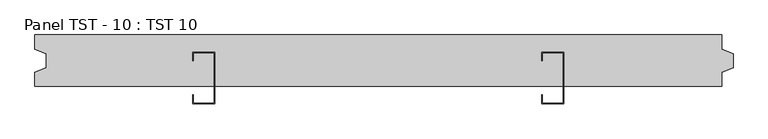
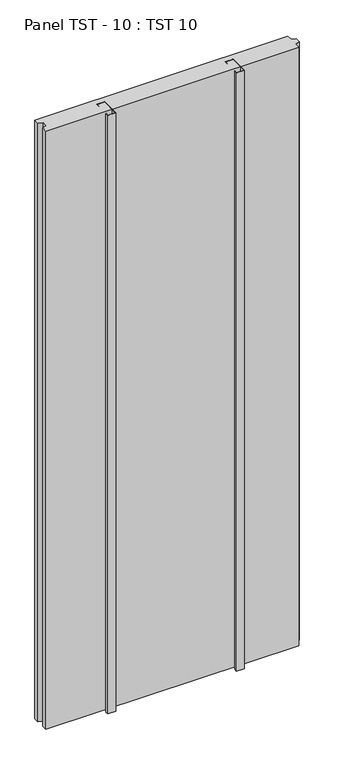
"""IFC4 building model written with IfcOpenShell, lengths in millimetres: plate geometry, Panel TST - 10 : TST 10."""

from ifc_helpers import new_model, si_unit, origin, origin_with_axes, place, context, project, spatial, polyline, outline, extrude, source, transform, mapped, element, save


def panel_tst_10_tst_10_3e421fc3(model_context):
    return source(origin(), model_context, "Body", "SweptSolid", [
        extrude(outline(polyline([(-324.0000002, 15.0), (-286.0000002, 15.0), (-286.0000002, -75.0), (-324.0000002, -75.0), (-324.0000002, -60.0), (-323.1500002, -60.0), (-323.1500002, -74.15), (-286.8500002, -74.15), (-286.8500002, 14.15), (-323.1500002, 14.15), (-323.1500002, 0.0), (-324.0000002, 0.0), (-324.0000002, 15.0)])), origin_with_axes(), (0.0, 0.0, 1.0), 3000.0),
        extrude(outline(polyline([(286.0000002, 15.0), (324.0000002, 15.0), (324.0000002, -75.0), (286.0000002, -75.0), (286.0000002, -60.0), (286.8500002, -60.0), (286.8500002, -74.15), (323.1500002, -74.15), (323.1500002, 14.15), (286.8500002, 14.15), (286.8500002, 0.0), (286.0000002, 0.0), (286.0000002, 15.0)])), origin_with_axes(), (0.0, 0.0, 1.0), 3000.0),
        extrude(outline(polyline([(-600.0000002, 45.0), (600.0000002, 45.0), (600.0000002, 20.0010038), (620.0000002, 12.5), (620.0000002, -12.5), (600.0000002, -20.0010038), (600.0000002, -45.0), (-600.0000002, -45.0), (-600.0000002, -20.0010038), (-580.0000002, -12.5), (-580.0000002, 12.5), (-600.0000002, 20.0010038), (-600.0000002, 45.0)])), origin_with_axes(), (0.0, 0.0, 1.0), 3000.0),
    ])


if __name__ == "__main__":
    model = new_model("IFC4")
    model_context = context("Model", 3, world=origin())
    ifc_project = project(units=[si_unit("LENGTHUNIT", "METRE", prefix="MILLI")], contexts=[model_context])
    site = spatial("IfcSite", under=ifc_project)
    building = spatial("IfcBuilding", under=site)
    placement = place(None, origin())
    panel_tst_10_tst_10_shape = panel_tst_10_tst_10_3e421fc3(model_context)
    element("IfcPlate", 1, ObjectType="Panel TST - 10 : TST 10", at=placement, inside=building, context=model_context, shape_type="MappedRepresentation", body=[
        mapped(panel_tst_10_tst_10_shape, transform((0.0, 0.0, 0.0), x_axis=(1.0, 0.0, 0.0), y_axis=(0.0, 1.0, 0.0), z_axis=(0.0, 0.0, 1.0))),
    ])
    save(model, "model.ifc")
